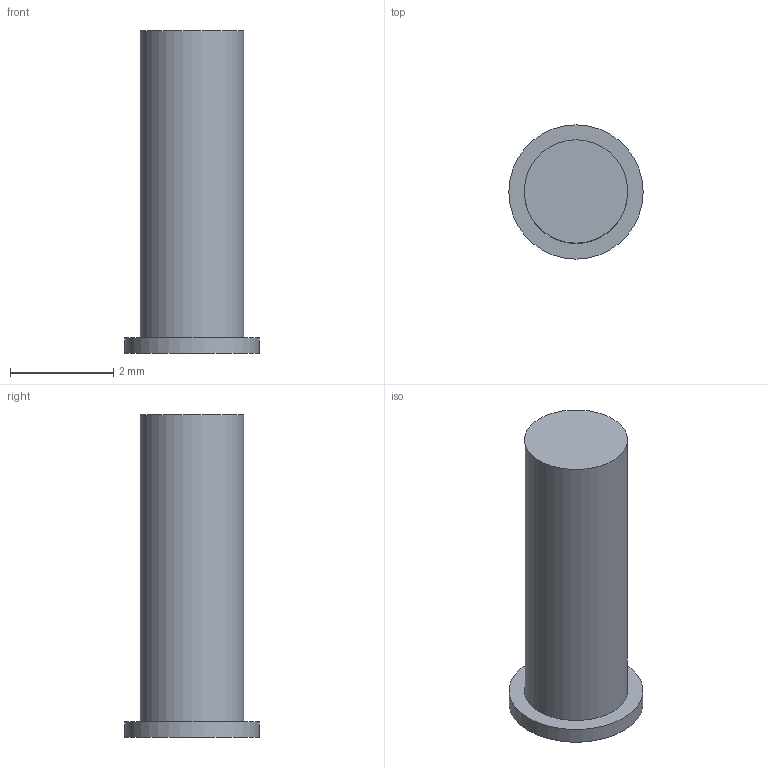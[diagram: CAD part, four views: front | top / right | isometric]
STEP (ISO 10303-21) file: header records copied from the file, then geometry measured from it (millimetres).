
FILE_DESCRIPTION(('Open CASCADE Model'),'2;1');
FILE_NAME('Open CASCADE Shape Model','2026-10-24T17:46:06',('Author'),( 'Open CASCADE'),'Open CASCADE STEP processor 8.0','Open CASCADE 8.0' ,'Unknown');
FILE_SCHEMA(('AUTOMOTIVE_DESIGN { 1 0 10303 214 1 1 1 1 }'));
Length unit declared in the file: millimetre
Products named in the file (1): Open CASCADE STEP translator 8.0 4
Bounding box: 2.6 x 2.6 x 6.25 mm (x, y, z)
Volume: 20.3 mm3; surface area: 50.5 mm2
Topology: 1 solids, 1 shells, 5 faces, 6 edges, 4 vertices
Faces by surface type: plane 3, cylinder 2
Full cylindrical faces by diameter (mm): 2 x1, 2.6 x1
Entity records: 192 total; most frequent: DIRECTION 34, CARTESIAN_POINT 28, ORIENTED_EDGE 12, PCURVE 12, DEFINITIONAL_REPRESENTATION 12, AXIS2_PLACEMENT_3D 10, LINE 10, VECTOR 10
